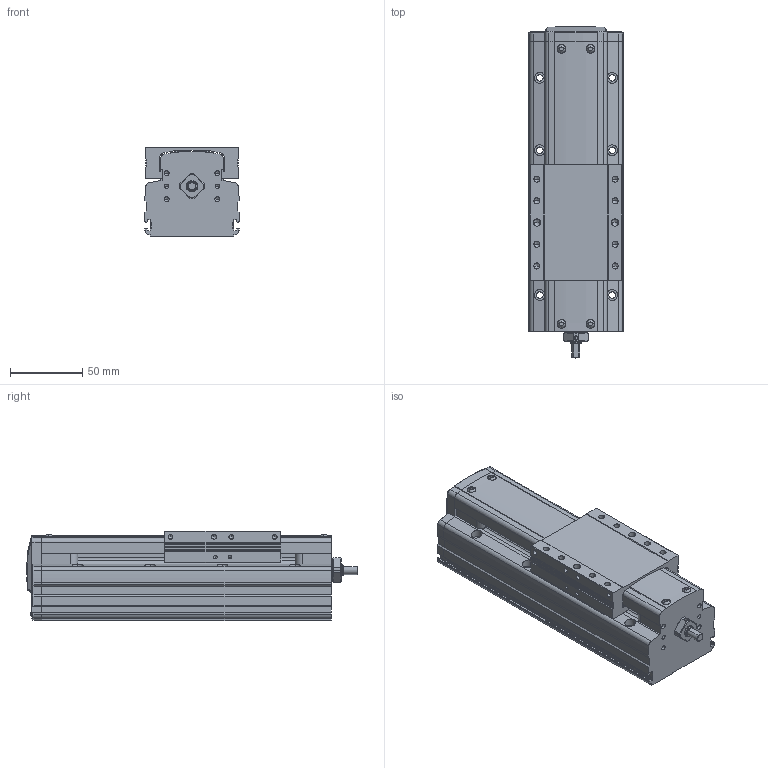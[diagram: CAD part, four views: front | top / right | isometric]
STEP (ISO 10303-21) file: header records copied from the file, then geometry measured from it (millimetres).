
FILE_DESCRIPTION(('STEP AP214'),'1');
FILE_NAME('Z:/Web/3D/PSA65/STP/PSA65-050 (3D)/PSA65ㅁㅁ-050.stp','2014-06-25T01:23:21',(' '),(' '),'Spatial InterOp 3D',' ',' ');
FILE_SCHEMA(('automotive_design'));
Length unit declared in the file: millimetre
Products named in the file (44): SLIDE; RRCV-PA060; 1; 2; 3; 4; 5; 6; 7; 8; 9; 10; 11; 12; 13; 14; 15; 16; 17; 18; 19; 20; 21; 22; 23; 24; 25; 26; 27; 28; 29; 30; 31; 스크루 : Round - M3.0 x 8.0; RN8 x 0.75; SHAFT-SAN65; BASE; 스크루 : Round - M3.0 x 6.0
Bounding box: 65 x 229.3 x 62 mm (x, y, z)
Volume: 684027.1 mm3; surface area: 111839.4 mm2
Topology: 44 solids, 44 shells, 1546 faces, 4121 edges, 2641 vertices
Faces by surface type: plane 979, cylinder 385, cone 129, sphere 22, torus 16, bspline 15
Entity records: 61527 total; most frequent: CARTESIAN_POINT 9731, ORIENTED_EDGE 8074, DIRECTION 8066, EDGE_CURVE 4037, LINE 2994, VECTOR 2994, VERTEX_POINT 2641, AXIS2_PLACEMENT_3D 2536
